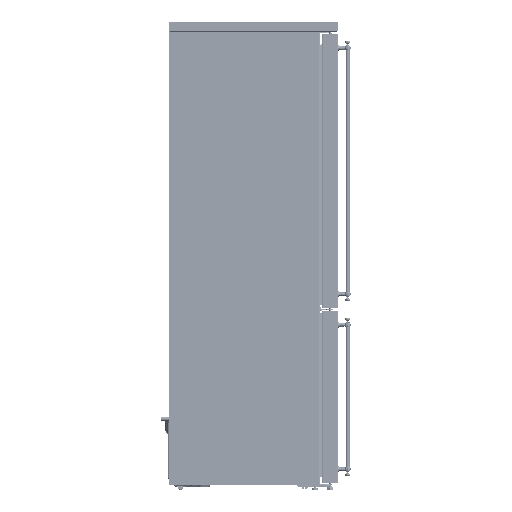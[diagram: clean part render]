
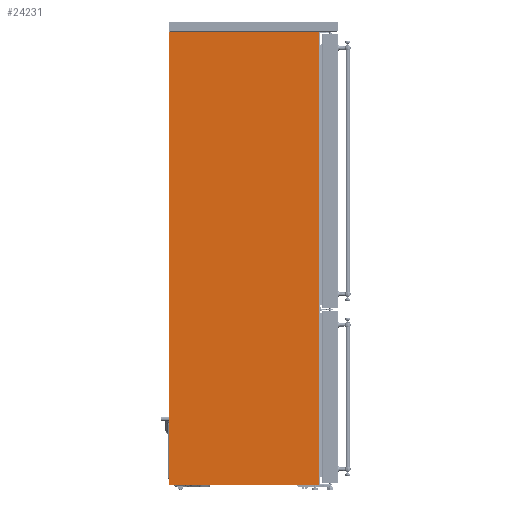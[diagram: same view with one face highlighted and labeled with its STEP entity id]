
A CAD part, left-side view. The second image highlights one B-rep face of the part: STEP entity #24231.
In plain terms, the highlighted planar face has unit normal (-1, 0, 0).
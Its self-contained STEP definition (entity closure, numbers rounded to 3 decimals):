
#24231=ADVANCED_FACE('',(#37050),#28998,.F.);
#28998=PLANE('',#183420);
#37050=FACE_OUTER_BOUND('',#48631,.T.);
#48631=EDGE_LOOP('',(#94484,#94485,#94486,#94487,#94488,#94489,#94490,#94491,
#94492,#94493,#94494,#94495));
#94484=ORIENTED_EDGE('',*,*,#132626,.F.);
#94485=ORIENTED_EDGE('',*,*,#132692,.T.);
#94486=ORIENTED_EDGE('',*,*,#132693,.F.);
#94487=ORIENTED_EDGE('',*,*,#132694,.F.);
#94488=ORIENTED_EDGE('',*,*,#132657,.T.);
#94489=ORIENTED_EDGE('',*,*,#132695,.F.);
#94490=ORIENTED_EDGE('',*,*,#132696,.F.);
#94491=ORIENTED_EDGE('',*,*,#132697,.T.);
#94492=ORIENTED_EDGE('',*,*,#132698,.F.);
#94493=ORIENTED_EDGE('',*,*,#132699,.F.);
#94494=ORIENTED_EDGE('',*,*,#132700,.T.);
#94495=ORIENTED_EDGE('',*,*,#132701,.F.);
#109658=VERTEX_POINT('',#336917);
#109659=VERTEX_POINT('',#336919);
#109685=VERTEX_POINT('',#336979);
#109686=VERTEX_POINT('',#336981);
#109718=VERTEX_POINT('',#337051);
#109719=VERTEX_POINT('',#337053);
#109720=VERTEX_POINT('',#337056);
#109721=VERTEX_POINT('',#337058);
#109722=VERTEX_POINT('',#337060);
#109723=VERTEX_POINT('',#337062);
#109724=VERTEX_POINT('',#337064);
#109725=VERTEX_POINT('',#337066);
#132626=EDGE_CURVE('',#109658,#109659,#146816,.T.);
#132657=EDGE_CURVE('',#109686,#109685,#146837,.T.);
#132692=EDGE_CURVE('',#109658,#109718,#146861,.T.);
#132693=EDGE_CURVE('',#109719,#109718,#146862,.T.);
#132694=EDGE_CURVE('',#109686,#109719,#146863,.T.);
#132695=EDGE_CURVE('',#109720,#109685,#146864,.T.);
#132696=EDGE_CURVE('',#109721,#109720,#146865,.T.);
#132697=EDGE_CURVE('',#109721,#109722,#146866,.T.);
#132698=EDGE_CURVE('',#109723,#109722,#146867,.T.);
#132699=EDGE_CURVE('',#109724,#109723,#146868,.T.);
#132700=EDGE_CURVE('',#109724,#109725,#146869,.T.);
#132701=EDGE_CURVE('',#109659,#109725,#146870,.T.);
#146816=LINE('',#336918,#160969);
#146837=LINE('',#336980,#160990);
#146861=LINE('',#337050,#161014);
#146862=LINE('',#337052,#161015);
#146863=LINE('',#337054,#161016);
#146864=LINE('',#337055,#161017);
#146865=LINE('',#337057,#161018);
#146866=LINE('',#337059,#161019);
#146867=LINE('',#337061,#161020);
#146868=LINE('',#337063,#161021);
#146869=LINE('',#337065,#161022);
#146870=LINE('',#337067,#161023);
#160969=VECTOR('',#228743,1.);
#160990=VECTOR('',#228792,1.);
#161014=VECTOR('',#228844,1.);
#161015=VECTOR('',#228845,1.);
#161016=VECTOR('',#228846,1.);
#161017=VECTOR('',#228847,1.);
#161018=VECTOR('',#228848,1.);
#161019=VECTOR('',#228849,1.);
#161020=VECTOR('',#228850,1.);
#161021=VECTOR('',#228851,1.);
#161022=VECTOR('',#228852,1.);
#161023=VECTOR('',#228853,1.);
#183420=AXIS2_PLACEMENT_3D('',#337068,#228854,#228855);
#228743=DIRECTION('',(0.,0.,-1.));
#228792=DIRECTION('',(0.,0.,1.));
#228844=DIRECTION('',(0.,-1.,0.));
#228845=DIRECTION('',(0.,0.,-1.));
#228846=DIRECTION('',(0.,-1.,0.));
#228847=DIRECTION('',(0.,-1.,0.));
#228848=DIRECTION('',(0.,0.,1.));
#228849=DIRECTION('',(0.,1.,0.));
#228850=DIRECTION('',(0.,0.,1.));
#228851=DIRECTION('',(0.,1.,0.));
#228852=DIRECTION('',(0.,0.,-1.));
#228853=DIRECTION('',(0.,1.,0.));
#228854=DIRECTION('',(1.,0.,0.));
#228855=DIRECTION('',(0.,0.,-1.));
#336917=CARTESIAN_POINT('',(-351.8,13.334,53.834));
#336918=CARTESIAN_POINT('',(-351.8,13.334,53.534));
#336919=CARTESIAN_POINT('',(-351.8,13.334,53.534));
#336979=CARTESIAN_POINT('',(-351.8,13.334,1945.334));
#336980=CARTESIAN_POINT('',(-351.8,13.334,1945.334));
#336981=CARTESIAN_POINT('',(-351.8,13.334,1945.034));
#337050=CARTESIAN_POINT('',(-351.8,13.034,53.834));
#337051=CARTESIAN_POINT('',(-351.8,13.034,53.834));
#337052=CARTESIAN_POINT('',(-351.8,13.034,1945.034));
#337053=CARTESIAN_POINT('',(-351.8,13.034,1945.034));
#337054=CARTESIAN_POINT('',(-351.8,13.034,1945.034));
#337055=CARTESIAN_POINT('',(-351.8,639.534,1945.334));
#337056=CARTESIAN_POINT('',(-351.8,639.534,1945.334));
#337057=CARTESIAN_POINT('',(-351.8,639.534,1945.334));
#337058=CARTESIAN_POINT('',(-351.8,639.534,1945.034));
#337059=CARTESIAN_POINT('',(-351.8,639.834,1945.034));
#337060=CARTESIAN_POINT('',(-351.8,639.834,1945.034));
#337061=CARTESIAN_POINT('',(-351.8,639.834,53.834));
#337062=CARTESIAN_POINT('',(-351.8,639.834,53.834));
#337063=CARTESIAN_POINT('',(-351.8,639.834,53.834));
#337064=CARTESIAN_POINT('',(-351.8,639.534,53.834));
#337065=CARTESIAN_POINT('',(-351.8,639.534,53.534));
#337066=CARTESIAN_POINT('',(-351.8,639.534,53.534));
#337067=CARTESIAN_POINT('',(-351.8,13.334,53.534));
#337068=CARTESIAN_POINT('',(-351.8,639.834,53.534));
